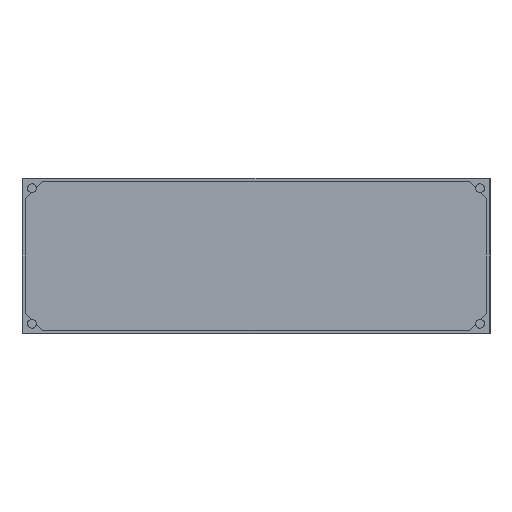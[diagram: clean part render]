
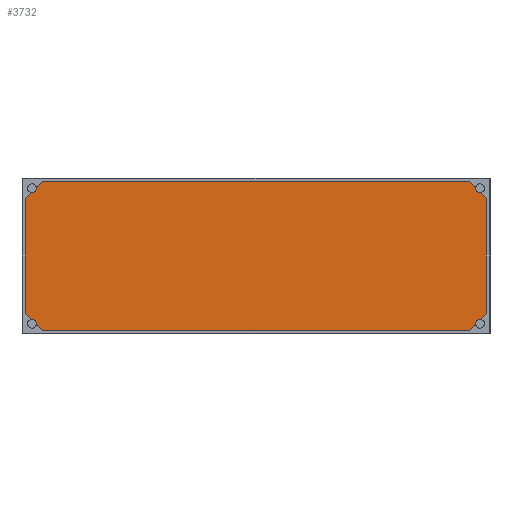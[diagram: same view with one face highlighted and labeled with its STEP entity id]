
A CAD part, front view. The second image highlights one B-rep face of the part: STEP entity #3732.
In plain terms, the highlighted planar face has unit normal (0, -1, 0).
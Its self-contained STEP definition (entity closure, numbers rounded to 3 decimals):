
#228=PLANE('',#4181);
#449=FACE_OUTER_BOUND('',#687,.T.);
#687=EDGE_LOOP('',(#3380,#3381,#3382,#3383));
#1033=LINE('',#6331,#1397);
#1035=LINE('',#6348,#1399);
#1039=LINE('',#6361,#1403);
#1041=LINE('',#6364,#1405);
#1397=VECTOR('',#5247,10.);
#1399=VECTOR('',#5267,10.);
#1403=VECTOR('',#5283,10.);
#1405=VECTOR('',#5287,10.);
#1800=VERTEX_POINT('',#6312);
#1806=VERTEX_POINT('',#6326);
#1810=VERTEX_POINT('',#6340);
#1815=VERTEX_POINT('',#6356);
#2312=EDGE_CURVE('',#1800,#1806,#1033,.T.);
#2320=EDGE_CURVE('',#1810,#1800,#1035,.T.);
#2327=EDGE_CURVE('',#1806,#1815,#1039,.T.);
#2329=EDGE_CURVE('',#1815,#1810,#1041,.T.);
#3380=ORIENTED_EDGE('',*,*,#2312,.F.);
#3381=ORIENTED_EDGE('',*,*,#2320,.F.);
#3382=ORIENTED_EDGE('',*,*,#2329,.F.);
#3383=ORIENTED_EDGE('',*,*,#2327,.F.);
#3732=ADVANCED_FACE('',(#449),#228,.F.);
#4181=AXIS2_PLACEMENT_3D('',#6387,#5318,#5319);
#5247=DIRECTION('',(0.,0.,-1.));
#5267=DIRECTION('',(1.,0.,0.));
#5283=DIRECTION('',(-1.,0.,0.));
#5287=DIRECTION('',(0.,0.,1.));
#5318=DIRECTION('center_axis',(0.,1.,0.));
#5319=DIRECTION('ref_axis',(0.,0.,1.));
#6312=CARTESIAN_POINT('',(740.5,0.,238.));
#6326=CARTESIAN_POINT('',(740.5,0.,-238.));
#6331=CARTESIAN_POINT('',(740.5,0.,120.));
#6340=CARTESIAN_POINT('',(-740.5,0.,238.));
#6348=CARTESIAN_POINT('',(-371.25,0.,238.));
#6356=CARTESIAN_POINT('',(-740.5,0.,-238.));
#6361=CARTESIAN_POINT('',(371.25,0.,-238.));
#6364=CARTESIAN_POINT('',(-740.5,0.,-120.));
#6387=CARTESIAN_POINT('Origin',(0.,0.,0.));
